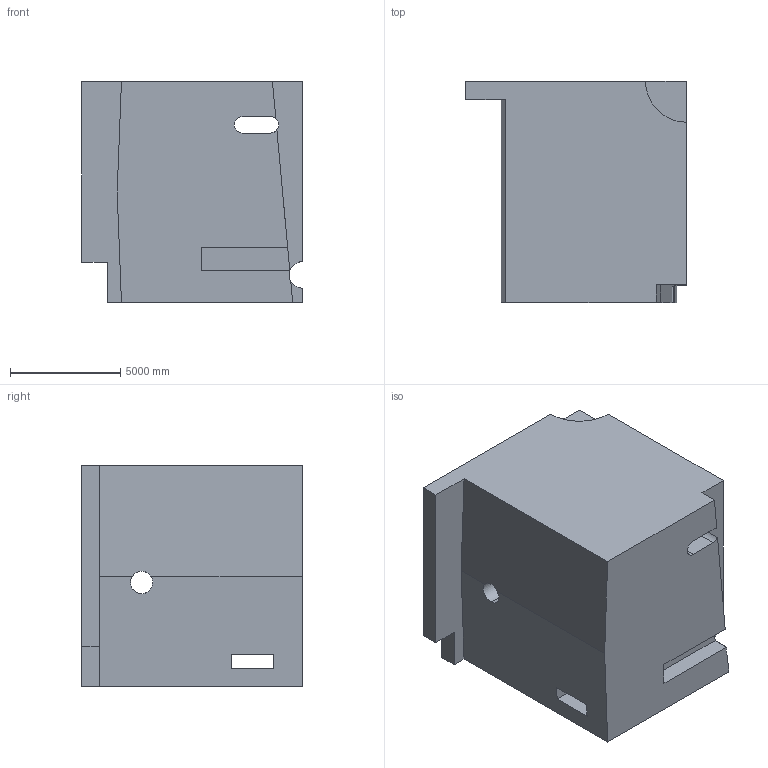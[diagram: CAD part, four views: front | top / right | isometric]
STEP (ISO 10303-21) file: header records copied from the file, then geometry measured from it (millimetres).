
FILE_DESCRIPTION (( 'STEP AP203' ), '1' );
FILE_NAME ('97.STEP', '2022-09-01T14:18:14', ( 'user' ), ( '' ), 'SwSTEP 2.0', 'SolidWorks 2021', '' );
FILE_SCHEMA (( 'CONFIG_CONTROL_DESIGN' ));
Length unit declared in the file: centimetre
Products named in the file (1): 97
Bounding box: 10000 x 10000 x 10000 mm (x, y, z)
Volume: 785845456508.1 mm3; surface area: 710390458.1 mm2
Topology: 1 solids, 1 shells, 40 faces, 114 edges, 76 vertices
Faces by surface type: plane 30, cylinder 10
Entity records: 1391 total; most frequent: CARTESIAN_POINT 243, ORIENTED_EDGE 228, DIRECTION 216, EDGE_CURVE 114, LINE 86, VECTOR 86, VERTEX_POINT 76, AXIS2_PLACEMENT_3D 65
